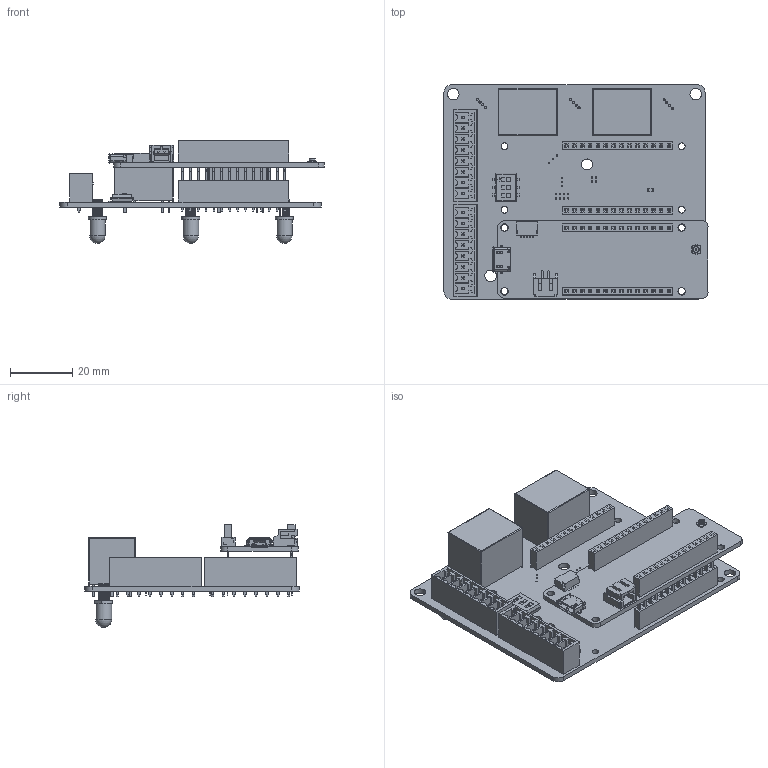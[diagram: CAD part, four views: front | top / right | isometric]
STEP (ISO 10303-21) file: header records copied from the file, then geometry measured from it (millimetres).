
FILE_DESCRIPTION(('FreeCAD Model'),'2;1');
FILE_NAME('Open CASCADE Shape Model','2024-12-18T00:27:12',(''),(''), 'Open CASCADE STEP processor 7.6','FreeCAD','Unknown');
FILE_SCHEMA(('AUTOMOTIVE_DESIGN { 1 0 10303 214 1 1 1 1 }'));
Length unit declared in the file: millimetre
Products named in the file (42): EXRCA; EXRCC; PhoenixContact_MCV_1,5_8-G-3.5_1x08_P3.50mm_Vertical; SOLID002; PhoenixContact_MCV_1,5_8-G-3.5_1x08_P3.50mm_Vertical001; LED_D5.0mm-4_RGB; SOLID009; LED_D5.0mm-4_RGB001; LED_D5.0mm-4_RGB002; LED_0805_2012Metric; SOLID035; Relay_SPDT_Finder_36.11; SOLID083; Relay_SPDT_Finder_36.012; SW_DIP_SPSTx03_Slide_6.7x9.18mm_W8.61mm_P2.54mm_LowProfile; SOLID085; PinSocket_1x14_P2.54mm_Vertical001; SOLID086; PinSocket_1x14_P2.54mm_Vertical002; PinSocket_1x14_P2.54mm_Vertical003; PinSocket_1x14_P2.54mm_Vertical; COMPOUND; MKR1310; PinHeader_1x14_P2.54mm_Vertical; Fusion003; PinSocket_1x14_P2.54mm_Vertical004; SOLID089; U.FL_Hirose_U.FL-R-SMT-1_Vertical; SOLID090; PinHeader_1x14_P2.54mm_Vertical001; PinSocket_1x14_P2.54mm_Vertical005; 10104111C; SOLID093; S2B-PH-SM4-TB(LF)(SN)--3DModel-STEP-56544; Solid001; Solid; Solid002; Solid003; Solid004; SM05B-SRSS-TB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
Assembly tree (50 placements, depth 4):
  EXRCA
    EXRCC
      PhoenixContact_MCV_1,5_8-G-3.5_1x08_P3.50mm_Vertical
        SOLID002
      PhoenixContact_MCV_1,5_8-G-3.5_1x08_P3.50mm_Vertical001
        SOLID002
      LED_D5.0mm-4_RGB
        SOLID009
      LED_D5.0mm-4_RGB001
        SOLID009
      LED_D5.0mm-4_RGB002
        SOLID009
      LED_0805_2012Metric
        SOLID035
      Relay_SPDT_Finder_36.11
        SOLID083
      Relay_SPDT_Finder_36.012
        SOLID083
      SW_DIP_SPSTx03_Slide_6.7x9.18mm_W8.61mm_P2.54mm_LowProfile
        SOLID085
      PinSocket_1x14_P2.54mm_Vertical001
        SOLID086
      PinSocket_1x14_P2.54mm_Vertical002
        SOLID086
      PinSocket_1x14_P2.54mm_Vertical003
        SOLID086
      PinSocket_1x14_P2.54mm_Vertical
        SOLID086
      COMPOUND
    MKR1310
      PinHeader_1x14_P2.54mm_Vertical
        Fusion003
      PinSocket_1x14_P2.54mm_Vertical004
        SOLID089
      U.FL_Hirose_U.FL-R-SMT-1_Vertical
        SOLID090
      PinHeader_1x14_P2.54mm_Vertical001
        Fusion003
      PinSocket_1x14_P2.54mm_Vertical005
        SOLID089
      10104111C
        SOLID093
      S2B-PH-SM4-TB(LF)(SN)--3DModel-STEP-56544
        Solid001
        Solid
        Solid002
        Solid003
        Solid004
      SM05B-SRSS-TB
        SOLID094
      COMPOUND002
Bounding box: 84.95 x 69 x 33.1 mm (x, y, z)
Volume: 27317.5 mm3; surface area: 32975.4 mm2
Topology: 53 solids, 58 shells, 5270 faces, 13482 edges, 8635 vertices
Faces by surface type: plane 4674, cylinder 523, sphere 32, cone 19, bspline 18, torus 4
Full cylindrical faces by diameter (mm): 0.4 x19, 0.7 x12, 1 x84, 1.2 x16, 1.3 x10, 1.8 x1, 1.92 x1, 2 x2, 2.2 x8, 2.413 x4, 3.5 x1, 3.7 x4, 5 x3
Entity records: 100560 total; most frequent: CARTESIAN_POINT 16035, ORIENTED_EDGE 15268, DIRECTION 14462, EDGE_CURVE 7634, LINE 6562, VECTOR 6562, VERTEX_POINT 4875, AXIS2_PLACEMENT_3D 3950
